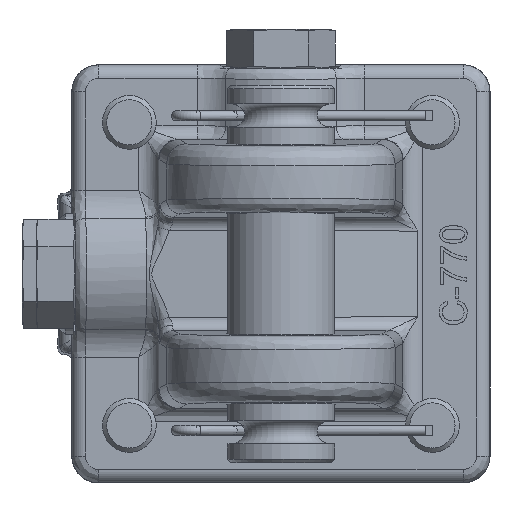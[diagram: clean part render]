
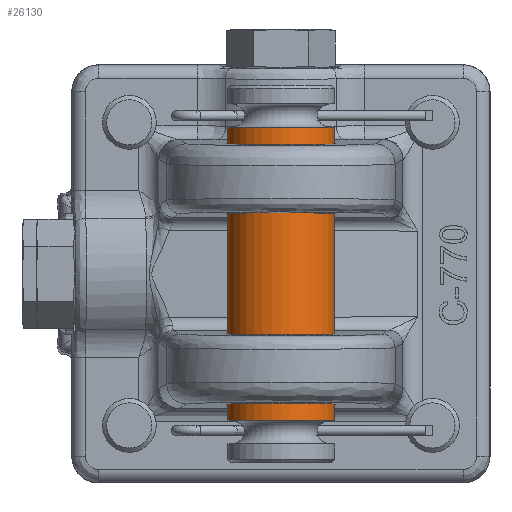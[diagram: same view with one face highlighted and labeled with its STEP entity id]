
A CAD part, left-side view. The second image highlights one B-rep face of the part: STEP entity #26130.
In plain terms, the highlighted cylindrical face has radius 12.7 mm (diameter 25.4 mm), a full revolution.
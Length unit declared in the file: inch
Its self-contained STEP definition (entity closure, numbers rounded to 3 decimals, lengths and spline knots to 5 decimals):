
#26026=CARTESIAN_POINT('',(-1.35975,0.5,0.));
#26027=VERTEX_POINT('',#26026);
#26028=CARTESIAN_POINT('',(-1.35975,0.0,0.0));
#26029=DIRECTION('',(1.0,0.0,0.0));
#26030=DIRECTION('',(0.0,-1.0,0.0));
#26031=AXIS2_PLACEMENT_3D('',#26028,#26029,#26030);
#26032=CIRCLE('',#26031,0.5);
#26033=EDGE_CURVE('',#26027,#26027,#26032,.T.);
#26058=CARTESIAN_POINT('',(1.35975,0.5,0.));
#26059=VERTEX_POINT('',#26058);
#26060=CARTESIAN_POINT('',(1.35975,0.0,0.0));
#26061=DIRECTION('',(-1.0,0.0,0.0));
#26062=DIRECTION('',(0.0,-1.0,0.0));
#26063=AXIS2_PLACEMENT_3D('',#26060,#26061,#26062);
#26064=CIRCLE('',#26063,0.5);
#26065=EDGE_CURVE('',#26059,#26059,#26064,.T.);
#26119=CARTESIAN_POINT('',(0.0,0.0,0.0));
#26120=DIRECTION('',(1.0,0.0,0.0));
#26121=DIRECTION('',(0.0,-1.0,0.0));
#26122=AXIS2_PLACEMENT_3D('',#26119,#26120,#26121);
#26123=CYLINDRICAL_SURFACE('',#26122,0.5);
#26124=ORIENTED_EDGE('',*,*,#26033,.T.);
#26125=EDGE_LOOP('',(#26124));
#26126=FACE_OUTER_BOUND('',#26125,.T.);
#26127=ORIENTED_EDGE('',*,*,#26065,.T.);
#26128=EDGE_LOOP('',(#26127));
#26129=FACE_BOUND('',#26128,.T.);
#26130=ADVANCED_FACE('',(#26126,#26129),#26123,.T.);
